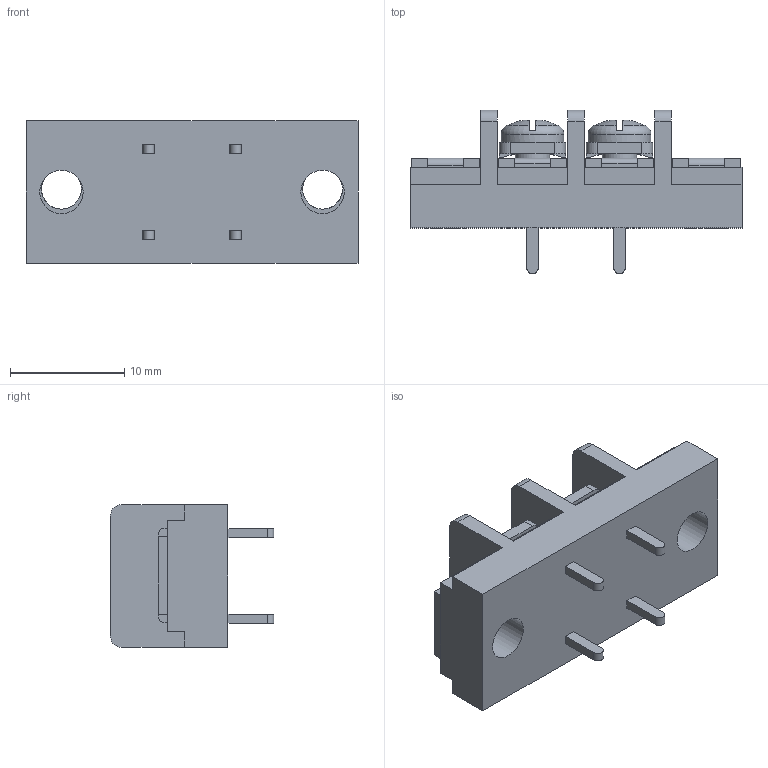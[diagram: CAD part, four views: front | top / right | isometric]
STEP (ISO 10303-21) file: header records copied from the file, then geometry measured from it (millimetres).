
FILE_DESCRIPTION(/* description */ ('Alibre Inc.'),/* implementation_level */ '2;1');
FILE_NAME(/* name */ 'export0',/* time_stamp */ '2015-10-26T18:26:22+09:00',/* author */ (''),/* organization */ (''),/* preprocessor_version */ 'ST-DEVELOPER v14',/* originating_system */ 'Alibre',/* authorisation */ '');
FILE_SCHEMA (('CONFIG_CONTROL_DESIGN'));
Length unit declared in the file: centimetre
Products named in the file (1): ID_1
Bounding box: 29.06 x 14.3 x 12.5 mm (x, y, z)
Volume: 2266.9 mm3; surface area: 2172.9 mm2
Topology: 1 solids, 17 shells, 638 faces, 1692 edges, 1120 vertices
Faces by surface type: plane 484, bspline 104, cylinder 34, cone 8, torus 4, sphere 4
Full cylindrical faces by diameter (mm): 3 x2, 3.5 x2, 3.8 x2, 5.5 x2
Entity records: 18897 total; most frequent: CARTESIAN_POINT 4411, ORIENTED_EDGE 3344, DIRECTION 2082, EDGE_CURVE 1672, VECTOR 1272, LINE 1272, VERTEX_POINT 1112, EDGE_LOOP 694
